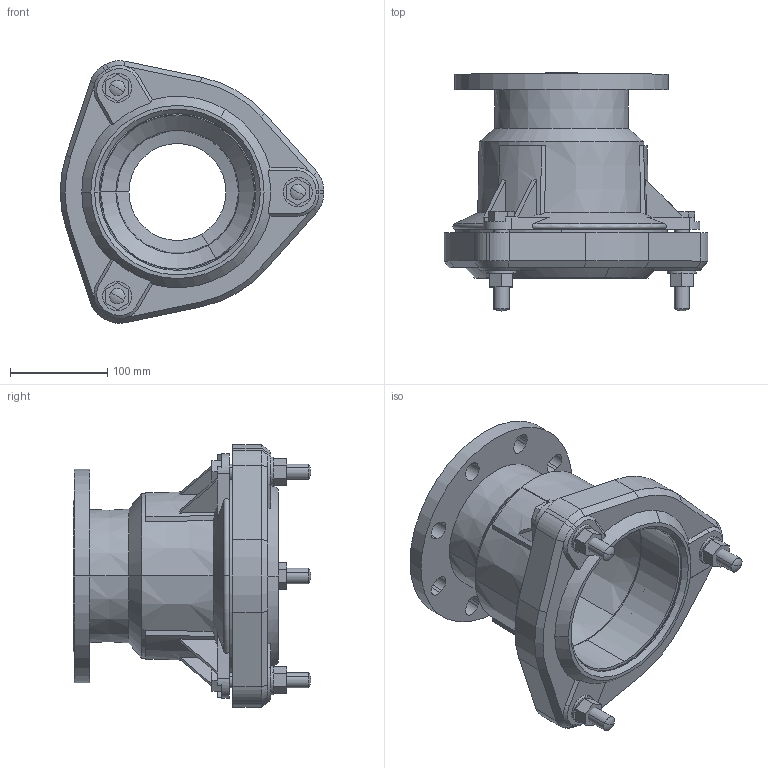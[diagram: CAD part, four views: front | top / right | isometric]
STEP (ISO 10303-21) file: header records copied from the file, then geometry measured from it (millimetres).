
FILE_DESCRIPTION((''),'2;1');
FILE_NAME('BIM_13199_21_ASM','2020-09-30T',('MReader'),(''),'CREO PARAMETRIC BY PTC INC, 2016130','CREO PARAMETRIC BY PTC INC, 2016130','');
FILE_SCHEMA(('CONFIG_CONTROL_DESIGN'));
Length unit declared in the file: millimetre
Products named in the file (5): BIM_13530; 132-2-160-2_GASKET_BIM; BIM_12198_5; BIM_M16_BOLT_90; BIM_13199_21_ASM
Assembly tree (6 placements, depth 2):
  BIM_13199_21_ASM
    BIM_13530
    132-2-160-2_GASKET_BIM
    BIM_12198_5
    BIM_M16_BOLT_90  x3
Bounding box: 271.68 x 245 x 270.65 mm (x, y, z)
Volume: 2718550.7 mm3; surface area: 565361.7 mm2
Topology: 6 solids, 6 shells, 329 faces, 840 edges, 533 vertices
Faces by surface type: plane 179, cylinder 70, cone 57, bspline 9, torus 8, sphere 6
Entity records: 9748 total; most frequent: CARTESIAN_POINT 2047, DIRECTION 1608, ORIENTED_EDGE 1564, EDGE_CURVE 782, AXIS2_PLACEMENT_3D 567, VERTEX_POINT 499, VECTOR 474, LINE 474
